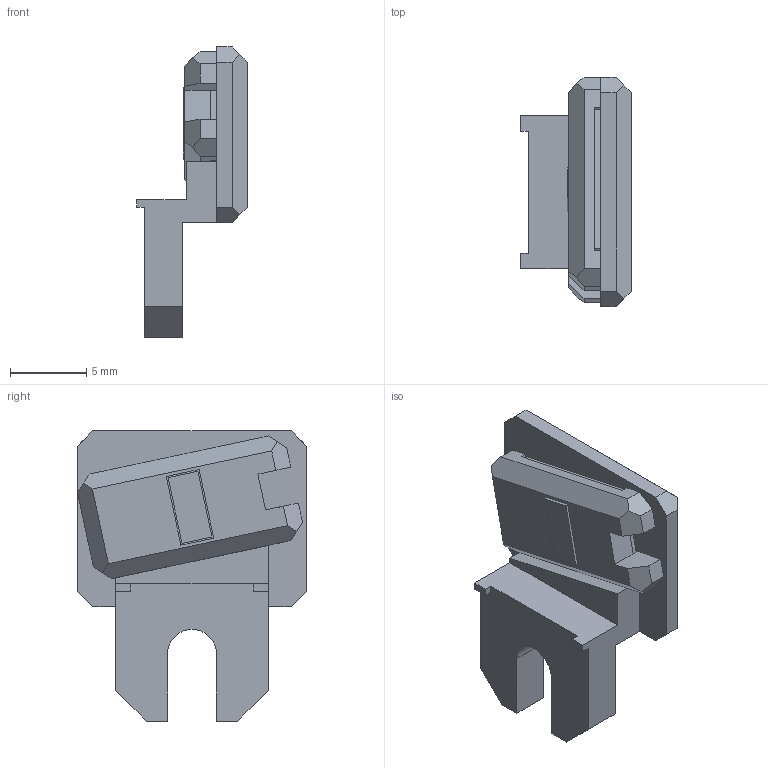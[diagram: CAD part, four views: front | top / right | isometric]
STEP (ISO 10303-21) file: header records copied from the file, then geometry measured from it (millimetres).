
FILE_DESCRIPTION(/* description */ (''),/* implementation_level */ '2;1');
FILE_NAME(/* name */ 'LA-9517-4815',/* time_stamp */ '2007-06-08T13:25:11+01:00',/* author */ (''),/* organization */ (''),/* preprocessor_version */ 'ST-DEVELOPER v9',/* originating_system */ 'UGS - NX 3.0',/* authorisation */ '');
FILE_SCHEMA (('CONFIG_CONTROL_DESIGN'));
Length unit declared in the file: millimetre
Products named in the file (1): lm11991Cb2hw
Bounding box: 7.25 x 15 x 19 mm (x, y, z)
Volume: 722.6 mm3; surface area: 781.9 mm2
Topology: 1 solids, 1 shells, 113 faces, 316 edges, 209 vertices
Faces by surface type: plane 90, extrusion 22, cylinder 1
Entity records: 3739 total; most frequent: CARTESIAN_POINT 816, ORIENTED_EDGE 632, DIRECTION 480, EDGE_CURVE 316, VECTOR 292, LINE 270, VERTEX_POINT 209, EDGE_LOOP 123
